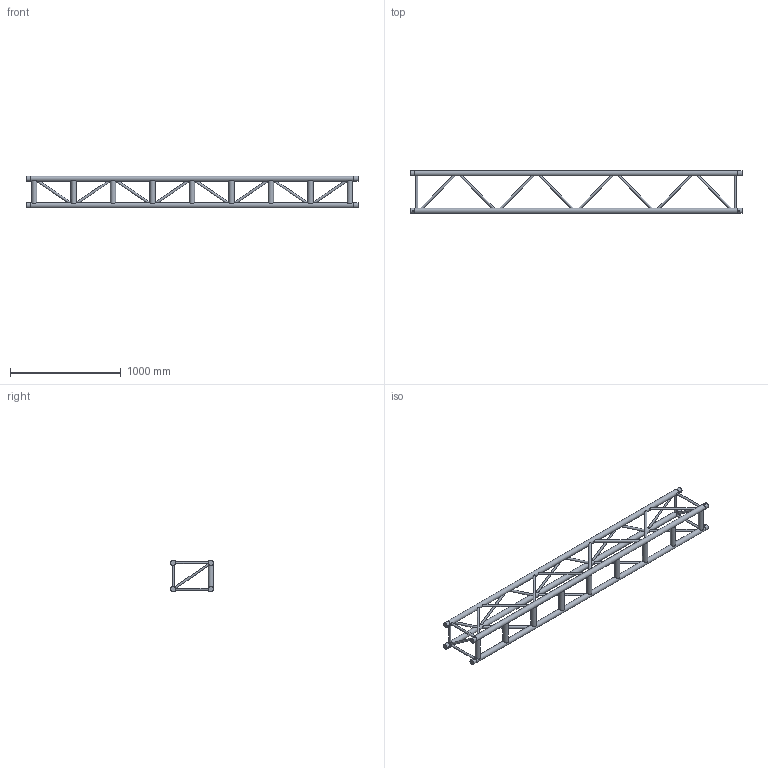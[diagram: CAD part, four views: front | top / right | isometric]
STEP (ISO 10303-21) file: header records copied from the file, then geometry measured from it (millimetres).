
FILE_DESCRIPTION(/* description */ (''),/* implementation_level */ '2;1');
FILE_NAME(/* name */ 'C:\Users\adrian.toca\Desktop\111050494.stp',/* time_stamp */ '2016-09-16T15:26:38+03:00',/* author */ ('adrian.toca'),/* organization */ (''),/* preprocessor_version */ 'ST-DEVELOPER v15.6',/* originating_system */ 'Autodesk Inventor 2015',/* authorisation */ '');
FILE_SCHEMA (('AUTOMOTIVE_DESIGN { 1 0 10303 214 3 1 1 }'));
Length unit declared in the file: millimetre
Products named in the file (1): 260030913
Bounding box: 3000 x 387.3 x 287.3 mm (x, y, z)
Volume: 28861253.9 mm3; surface area: 2846968.7 mm2
Topology: 21 solids, 21 shells, 209 faces, 499 edges, 324 vertices
Faces by surface type: cylinder 101, plane 100, cone 8
Full cylindrical faces by diameter (mm): 10 x8, 20 x32, 48.3 x21
Entity records: 7556 total; most frequent: CARTESIAN_POINT 3412, DIRECTION 790, ORIENTED_EDGE 708, AXIS2_PLACEMENT_3D 366, EDGE_LOOP 342, EDGE_CURVE 340, VERTEX_POINT 260, FACE_BOUND 173
